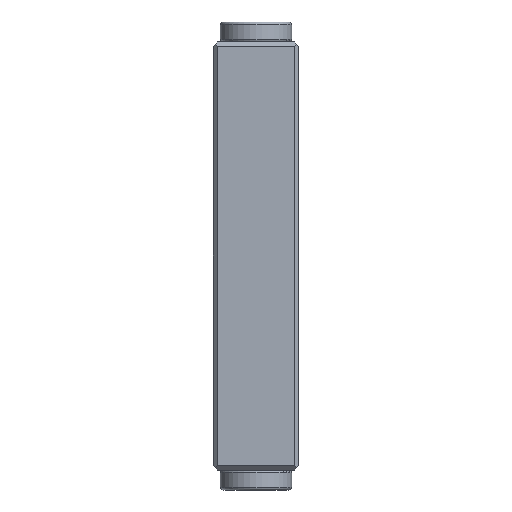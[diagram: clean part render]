
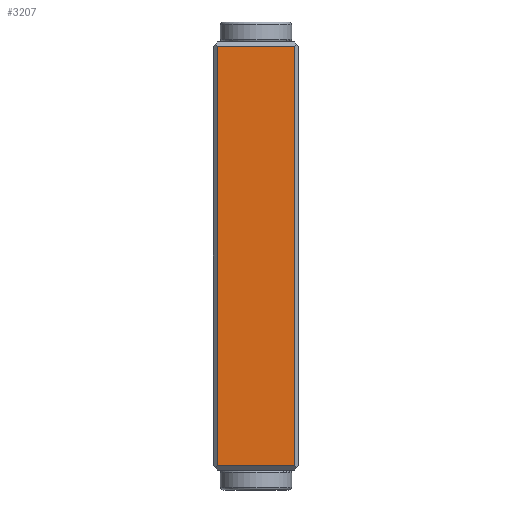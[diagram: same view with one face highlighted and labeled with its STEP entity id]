
A CAD part, left-side view. The second image highlights one B-rep face of the part: STEP entity #3207.
In plain terms, the highlighted planar face has unit normal (-1, 0, 0).
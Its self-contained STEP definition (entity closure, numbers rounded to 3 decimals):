
#109=LINE('',#4423,#405);
#149=LINE('',#4505,#445);
#150=LINE('',#4507,#446);
#151=LINE('',#4509,#447);
#405=VECTOR('',#3625,1000.);
#445=VECTOR('',#3685,1000.);
#446=VECTOR('',#3686,1000.);
#447=VECTOR('',#3687,1000.);
#754=ORIENTED_EDGE('',*,*,#1524,.T.);
#755=ORIENTED_EDGE('',*,*,#1482,.T.);
#756=ORIENTED_EDGE('',*,*,#1525,.F.);
#757=ORIENTED_EDGE('',*,*,#1526,.F.);
#1482=EDGE_CURVE('',#1872,#1873,#109,.T.);
#1524=EDGE_CURVE('',#1904,#1872,#149,.T.);
#1525=EDGE_CURVE('',#1905,#1873,#150,.T.);
#1526=EDGE_CURVE('',#1904,#1905,#151,.T.);
#1872=VERTEX_POINT('',#4424);
#1873=VERTEX_POINT('',#4425);
#1904=VERTEX_POINT('',#4506);
#1905=VERTEX_POINT('',#4508);
#2206=EDGE_LOOP('',(#754,#755,#756,#757));
#2396=FACE_BOUND('',#2206,.T.);
#2585=PLANE('',#3368);
#3207=ADVANCED_FACE('',(#2396),#2585,.T.);
#3368=AXIS2_PLACEMENT_3D('',#4504,#3683,#3684);
#3625=DIRECTION('',(0.,0.,1.));
#3683=DIRECTION('',(-1.,0.,0.));
#3684=DIRECTION('',(0.,0.,1.));
#3685=DIRECTION('',(0.,-1.,0.));
#3686=DIRECTION('',(0.,-1.,0.));
#3687=DIRECTION('',(0.,0.,1.));
#4423=CARTESIAN_POINT('',(-2.75,-2.7,-30.));
#4424=CARTESIAN_POINT('',(-2.75,-2.7,-29.7));
#4425=CARTESIAN_POINT('',(-2.75,-2.7,-0.3));
#4504=CARTESIAN_POINT('',(-2.75,2.7,-30.));
#4505=CARTESIAN_POINT('',(-2.75,3.9,-29.7));
#4506=CARTESIAN_POINT('',(-2.75,2.7,-29.7));
#4507=CARTESIAN_POINT('',(-2.75,3.9,-0.3));
#4508=CARTESIAN_POINT('',(-2.75,2.7,-0.3));
#4509=CARTESIAN_POINT('',(-2.75,2.7,-30.));
